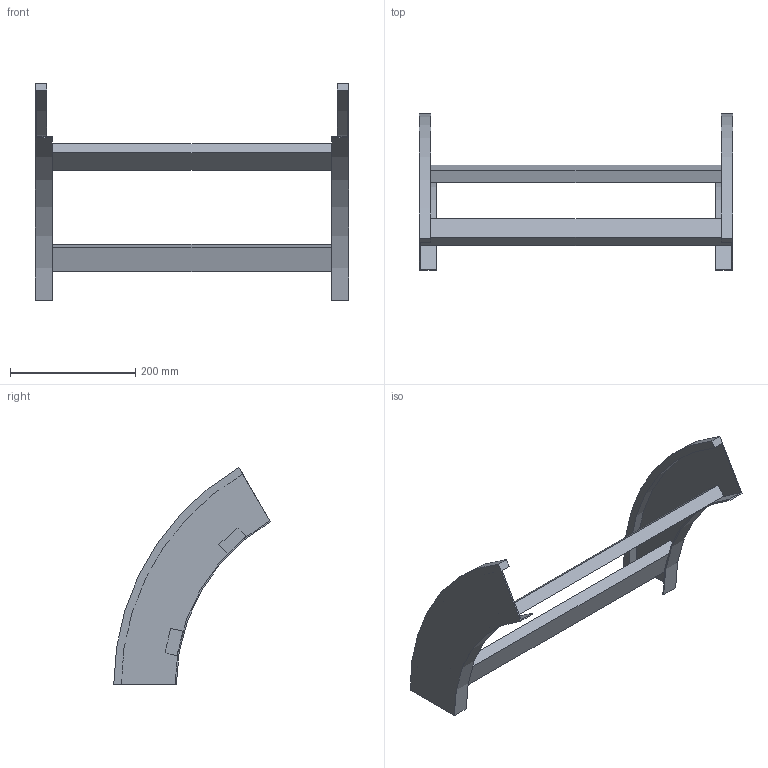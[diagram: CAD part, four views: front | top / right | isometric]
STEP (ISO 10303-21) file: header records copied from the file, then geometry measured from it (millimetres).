
FILE_DESCRIPTION (( 'STEP AP214' ), '1' );
FILE_NAME ('B2_41B3D500.step', '2025-02-21T14:57:16', ( '' ), ( '' ), 'SwSTEP 2.0', 'SolidWorks 2023', '' );
FILE_SCHEMA (( 'AUTOMOTIVE_DESIGN' ));
Length unit declared in the file: millimetre
Products named in the file (3): B2_41B3D500; B2_LONGH.DISCESA_60°_H100_R300; TRAVERSINO_500
Assembly tree (4 placements, depth 2):
  B2_41B3D500
    B2_LONGH.DISCESA_60°_H100_R300  x2
    TRAVERSINO_500  x2
Bounding box: 500 x 250 x 346.41 mm (x, y, z)
Volume: 1140085.1 mm3; surface area: 332506.6 mm2
Topology: 4 solids, 4 shells, 32 faces, 72 edges, 48 vertices
Faces by surface type: plane 24, cylinder 8
Entity records: 552 total; most frequent: DIRECTION 90, CARTESIAN_POINT 83, ORIENTED_EDGE 72, EDGE_CURVE 36, AXIS2_PLACEMENT_3D 31, VECTOR 28, LINE 28, VERTEX_POINT 24
